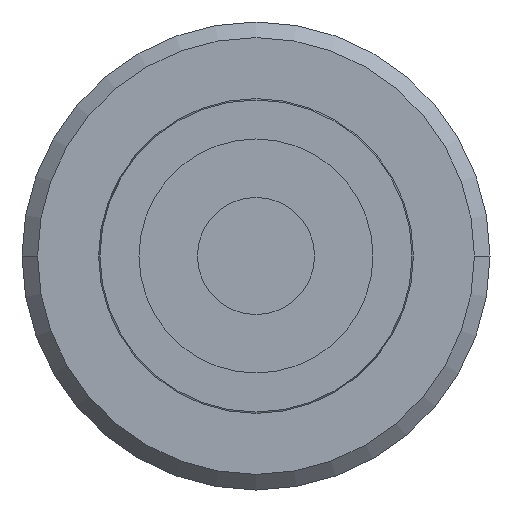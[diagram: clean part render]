
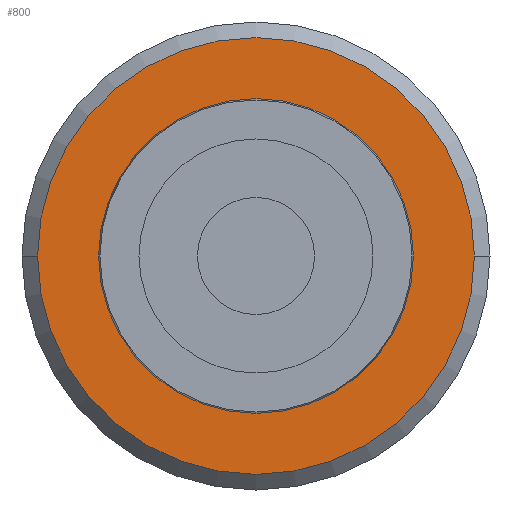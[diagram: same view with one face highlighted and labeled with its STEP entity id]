
A CAD part, left-side view. The second image highlights one B-rep face of the part: STEP entity #800.
In plain terms, the highlighted planar face has unit normal (-1, 0, 0).
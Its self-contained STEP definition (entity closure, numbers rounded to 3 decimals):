
#253=CARTESIAN_POINT('',(-3.4,0.,0.));
#254=DIRECTION('',(1.,0.,0.));
#255=DIRECTION('',(0.,1.,0.));
#256=AXIS2_PLACEMENT_3D('',#253,#254,#255);
#258=CARTESIAN_POINT('',(-3.4,0.,0.));
#259=DIRECTION('',(1.,0.,0.));
#260=DIRECTION('',(0.,-1.,0.));
#261=AXIS2_PLACEMENT_3D('',#258,#259,#260);
#263=CARTESIAN_POINT('',(-3.4,0.,0.));
#264=DIRECTION('',(-1.,0.,0.));
#265=DIRECTION('',(0.,1.,0.));
#266=AXIS2_PLACEMENT_3D('',#263,#264,#265);
#268=CARTESIAN_POINT('',(-3.4,0.,0.));
#269=DIRECTION('',(-1.,0.,0.));
#270=DIRECTION('',(0.,-1.,0.));
#271=AXIS2_PLACEMENT_3D('',#268,#269,#270);
#399=CARTESIAN_POINT('',(-3.4,2.8,0.));
#400=CARTESIAN_POINT('',(-3.4,-2.8,0.));
#401=VERTEX_POINT('',#399);
#402=VERTEX_POINT('',#400);
#455=CARTESIAN_POINT('',(-3.4,2.018,0.));
#456=CARTESIAN_POINT('',(-3.4,-2.018,0.));
#457=VERTEX_POINT('',#455);
#458=VERTEX_POINT('',#456);
#784=CARTESIAN_POINT('',(-3.4,0.,0.));
#785=DIRECTION('',(-1.,0.,0.));
#786=DIRECTION('',(0.,1.,0.));
#787=AXIS2_PLACEMENT_3D('',#784,#785,#786);
#788=PLANE('',#787);
#789=ORIENTED_EDGE('',*,*,#774,.F.);
#791=ORIENTED_EDGE('',*,*,#790,.F.);
#792=EDGE_LOOP('',(#789,#791));
#793=FACE_OUTER_BOUND('',#792,.F.);
#795=ORIENTED_EDGE('',*,*,#794,.F.);
#797=ORIENTED_EDGE('',*,*,#796,.F.);
#798=EDGE_LOOP('',(#795,#797));
#799=FACE_BOUND('',#798,.F.);
#800=ADVANCED_FACE('',(#793,#799),#788,.T.);
#257=CIRCLE('',#256,2.018);
#262=CIRCLE('',#261,2.018);
#267=CIRCLE('',#266,2.8);
#272=CIRCLE('',#271,2.8);
#774=EDGE_CURVE('',#401,#402,#267,.T.);
#790=EDGE_CURVE('',#402,#401,#272,.T.);
#794=EDGE_CURVE('',#457,#458,#257,.T.);
#796=EDGE_CURVE('',#458,#457,#262,.T.);
